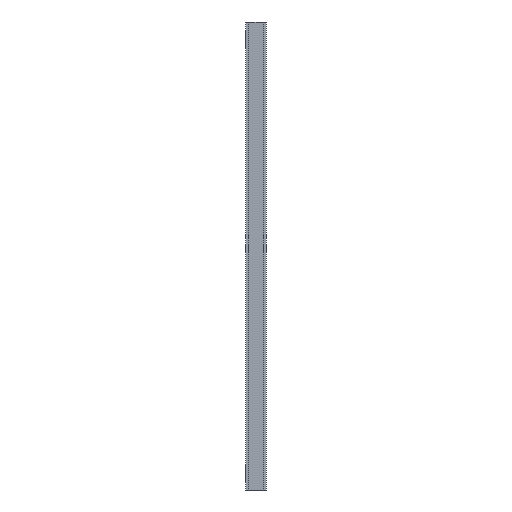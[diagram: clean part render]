
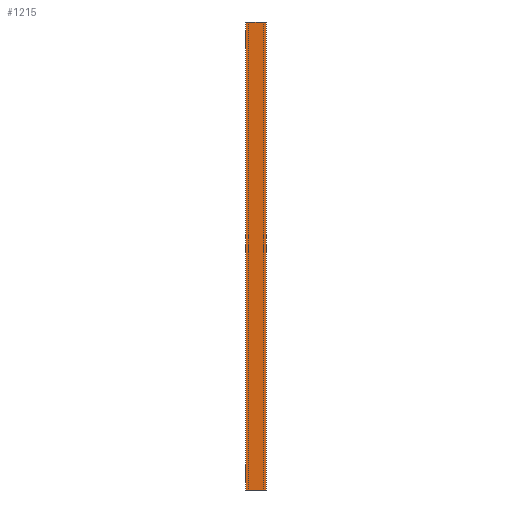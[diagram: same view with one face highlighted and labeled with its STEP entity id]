
A CAD part, left-side view. The second image highlights one B-rep face of the part: STEP entity #1215.
In plain terms, the highlighted planar face has unit normal (-1, 0, 0).
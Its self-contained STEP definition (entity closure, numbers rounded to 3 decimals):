
#51 = ORIENTED_EDGE ( 'NONE', *, *, #86, .F. ) ;
#53 = DIRECTION ( 'NONE',  ( -1., 0., 0. ) ) ;
#59 = ORIENTED_EDGE ( 'NONE', *, *, #1641, .T. ) ;
#76 = CARTESIAN_POINT ( 'NONE',  ( -8., 9.3, 279. ) ) ;
#77 = VECTOR ( 'NONE', #100, 1000. ) ;
#86 = EDGE_CURVE ( 'NONE', #1397, #132, #696, .T. ) ;
#91 = EDGE_CURVE ( 'NONE', #877, #1397, #1759, .T. ) ;
#100 = DIRECTION ( 'NONE',  ( 0., 1., 0. ) ) ;
#132 = VERTEX_POINT ( 'NONE', #1595 ) ;
#161 = ORIENTED_EDGE ( 'NONE', *, *, #1104, .F. ) ;
#179 = EDGE_CURVE ( 'NONE', #877, #449, #1318, .T. ) ;
#180 = ORIENTED_EDGE ( 'NONE', *, *, #179, .T. ) ;
#191 = EDGE_CURVE ( 'NONE', #1700, #446, #534, .T. ) ;
#215 = VERTEX_POINT ( 'NONE', #726 ) ;
#253 = LINE ( 'NONE', #1503, #373 ) ;
#260 = DIRECTION ( 'NONE',  ( 0., -1., 0. ) ) ;
#296 = LINE ( 'NONE', #447, #1518 ) ;
#371 = CARTESIAN_POINT ( 'NONE',  ( -8., 3.2, 0. ) ) ;
#373 = VECTOR ( 'NONE', #260, 1000. ) ;
#446 = VERTEX_POINT ( 'NONE', #637 ) ;
#447 = CARTESIAN_POINT ( 'NONE',  ( -8., 0., 279. ) ) ;
#449 = VERTEX_POINT ( 'NONE', #1747 ) ;
#483 = EDGE_CURVE ( 'NONE', #446, #132, #505, .T. ) ;
#485 = ORIENTED_EDGE ( 'NONE', *, *, #1027, .F. ) ;
#494 = AXIS2_PLACEMENT_3D ( 'NONE', #1272, #53, #1545 ) ;
#505 = LINE ( 'NONE', #1442, #1046 ) ;
#534 = LINE ( 'NONE', #1081, #708 ) ;
#620 = DIRECTION ( 'NONE',  ( 0., 0., -1. ) ) ;
#621 = VECTOR ( 'NONE', #662, 1000. ) ;
#637 = CARTESIAN_POINT ( 'NONE',  ( -8., 12.5, 279. ) ) ;
#662 = DIRECTION ( 'NONE',  ( 0., 1., 0. ) ) ;
#670 = DIRECTION ( 'NONE',  ( 0., -1., 0. ) ) ;
#696 = LINE ( 'NONE', #790, #77 ) ;
#708 = VECTOR ( 'NONE', #1621, 1000. ) ;
#726 = CARTESIAN_POINT ( 'NONE',  ( -8., 0., 279. ) ) ;
#736 = FACE_OUTER_BOUND ( 'NONE', #845, .T. ) ;
#765 = CARTESIAN_POINT ( 'NONE',  ( -8., 3.2, 279. ) ) ;
#790 = CARTESIAN_POINT ( 'NONE',  ( -8., 0., 0. ) ) ;
#806 = CARTESIAN_POINT ( 'NONE',  ( -8., 9.3, 0. ) ) ;
#845 = EDGE_LOOP ( 'NONE', ( #1276, #180, #161, #485, #59, #1288, #1567, #51 ) ) ;
#877 = VERTEX_POINT ( 'NONE', #371 ) ;
#1027 = EDGE_CURVE ( 'NONE', #1306, #215, #253, .T. ) ;
#1046 = VECTOR ( 'NONE', #620, 1000. ) ;
#1081 = CARTESIAN_POINT ( 'NONE',  ( -8., 12.5, 279. ) ) ;
#1104 = EDGE_CURVE ( 'NONE', #215, #449, #1338, .T. ) ;
#1123 = VECTOR ( 'NONE', #1212, 1000. ) ;
#1212 = DIRECTION ( 'NONE',  ( 0., 0., -1. ) ) ;
#1215 = ADVANCED_FACE ( 'NONE', ( #736 ), #1534, .T. ) ;
#1272 = CARTESIAN_POINT ( 'NONE',  ( -8., 0., 279. ) ) ;
#1276 = ORIENTED_EDGE ( 'NONE', *, *, #91, .F. ) ;
#1288 = ORIENTED_EDGE ( 'NONE', *, *, #191, .T. ) ;
#1306 = VERTEX_POINT ( 'NONE', #765 ) ;
#1318 = LINE ( 'NONE', #1346, #1335 ) ;
#1335 = VECTOR ( 'NONE', #670, 1000. ) ;
#1338 = LINE ( 'NONE', #1616, #1123 ) ;
#1346 = CARTESIAN_POINT ( 'NONE',  ( -8., 0., 0. ) ) ;
#1397 = VERTEX_POINT ( 'NONE', #806 ) ;
#1400 = DIRECTION ( 'NONE',  ( 0., 1., 0. ) ) ;
#1442 = CARTESIAN_POINT ( 'NONE',  ( -8., 12.5, 279. ) ) ;
#1503 = CARTESIAN_POINT ( 'NONE',  ( -8., 0., 279. ) ) ;
#1518 = VECTOR ( 'NONE', #1400, 1000. ) ;
#1534 = PLANE ( 'NONE',  #494 ) ;
#1545 = DIRECTION ( 'NONE',  ( 0., 0., 1. ) ) ;
#1567 = ORIENTED_EDGE ( 'NONE', *, *, #483, .T. ) ;
#1595 = CARTESIAN_POINT ( 'NONE',  ( -8., 12.5, 0. ) ) ;
#1607 = CARTESIAN_POINT ( 'NONE',  ( -8., 0., 0. ) ) ;
#1616 = CARTESIAN_POINT ( 'NONE',  ( -8., 0., 279. ) ) ;
#1621 = DIRECTION ( 'NONE',  ( 0., 1., 0. ) ) ;
#1641 = EDGE_CURVE ( 'NONE', #1306, #1700, #296, .T. ) ;
#1700 = VERTEX_POINT ( 'NONE', #76 ) ;
#1747 = CARTESIAN_POINT ( 'NONE',  ( -8., 0., 0. ) ) ;
#1759 = LINE ( 'NONE', #1607, #621 ) ;
